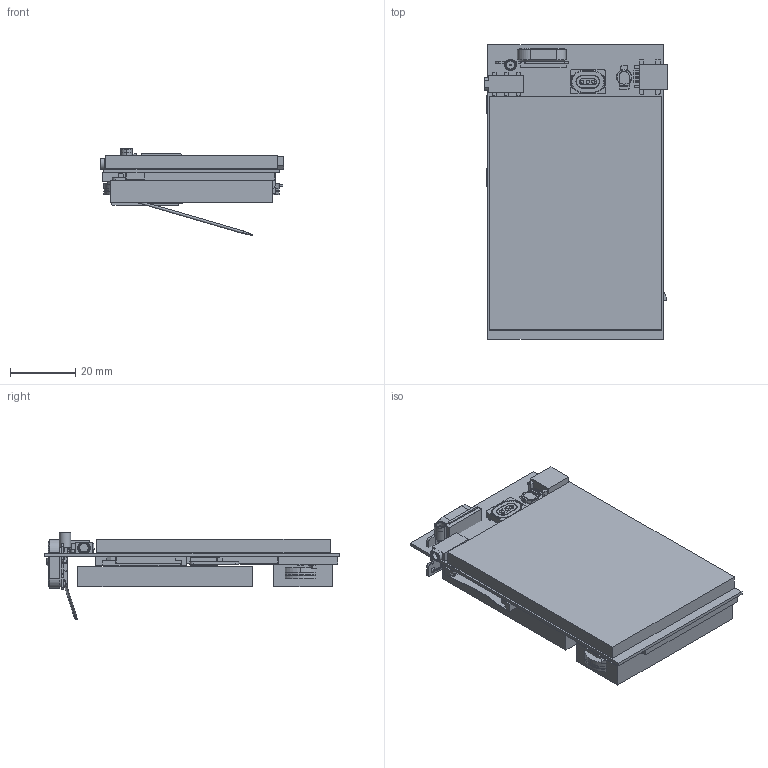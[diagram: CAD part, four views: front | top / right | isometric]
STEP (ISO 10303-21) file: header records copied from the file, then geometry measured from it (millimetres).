
FILE_DESCRIPTION((''),'2;1');
FILE_NAME('ID-GTC-STACKING_PRT','2008-06-30T',('GRA'),(''),'PRO/ENGINEER BY PARAMETRIC TECHNOLOGY CORPORATION, 2006170','PRO/ENGINEER BY PARAMETRIC TECHNOLOGY CORPORATION, 2006170','');
FILE_SCHEMA(('CONFIG_CONTROL_DESIGN'));
Products named in the file (1): ID-GTC-STACKING_PRT
Bounding box: 56.58 x 90.5 x 26.81 mm (x, y, z)
Volume: 45644.4 mm3; surface area: 42850.1 mm2
Topology: 37 solids, 53 shells, 1695 faces, 4605 edges, 3031 vertices
Faces by surface type: plane 1182, cylinder 318, bspline 74, extrusion 63, torus 26, cone 24, sphere 8
Entity records: 61620 total; most frequent: CARTESIAN_POINT 19232, ORIENTED_EDGE 9060, DIRECTION 8133, EDGE_CURVE 4559, VECTOR 3387, LINE 3324, VERTEX_POINT 3031, AXIS2_PLACEMENT_3D 2373
